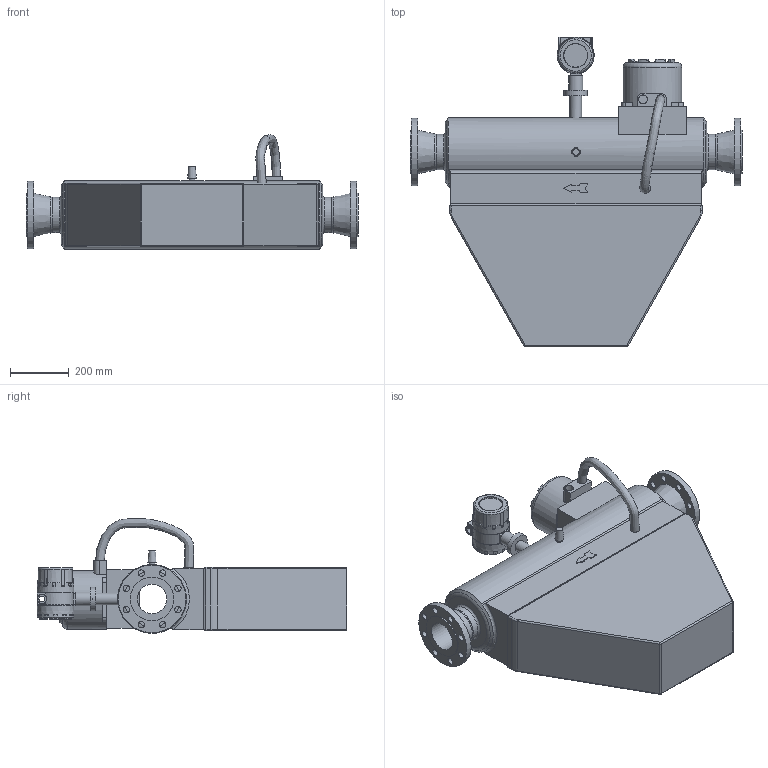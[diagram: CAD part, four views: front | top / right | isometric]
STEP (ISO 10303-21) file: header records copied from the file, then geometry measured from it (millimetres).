
FILE_DESCRIPTION(('STEP AP203'), '1');
FILE_NAME('Äó 100 - 4 ÌÏà - 100 Ñ', '', ('UNSPECIFIED'), ('UNSPECIFIED'), 'ASCON STEP Converter 1.6', 'ASCON Math Kernel', '');
FILE_SCHEMA(('CONFIG_CONTROL_DESIGN'));
Length unit declared in the file: millimetre
Products named in the file (1): Äó100 1.6ÌÏà
Bounding box: 1130 x 1054 x 390.19 mm (x, y, z)
Volume: 123088305 mm3; surface area: 2608364.1 mm2
Topology: 2 solids, 2 shells, 422 faces, 1059 edges, 664 vertices
Faces by surface type: plane 211, cylinder 134, cone 45, torus 19, sphere 8, bspline 5
Full cylindrical faces by diameter (mm): 7 x4, 10 x4, 20 x2, 22 x16, 30 x3, 32 x2, 40 x1, 47 x1, 80 x2, 100 x1, 120 x2, 149 x2, 200 x1, 230 x2
Entity records: 18634 total; most frequent: CARTESIAN_POINT 5409, DIRECTION 2047, ORIENTED_EDGE 1966, EDGE_CURVE 983, AXIS2_PLACEMENT_3D 816, VERTEX_POINT 664, EDGE_LOOP 557, FACE_BOUND 460
